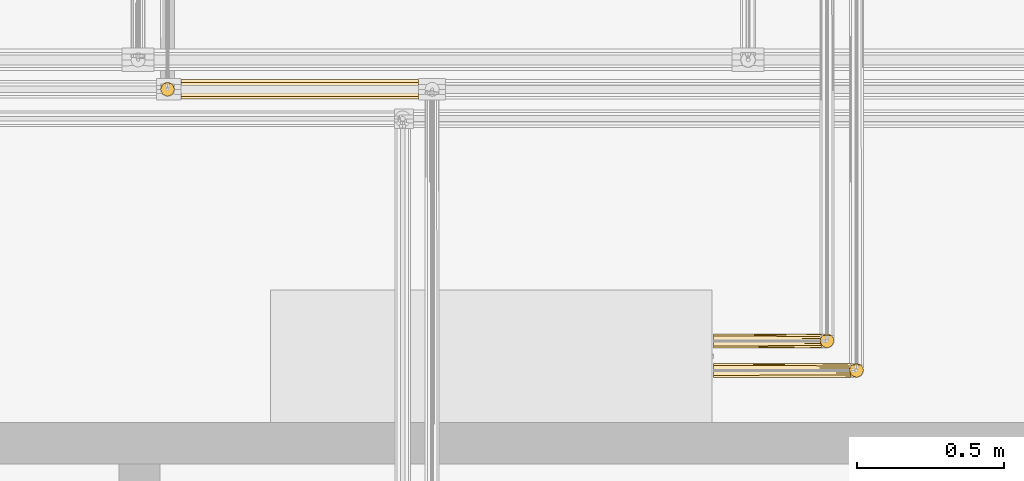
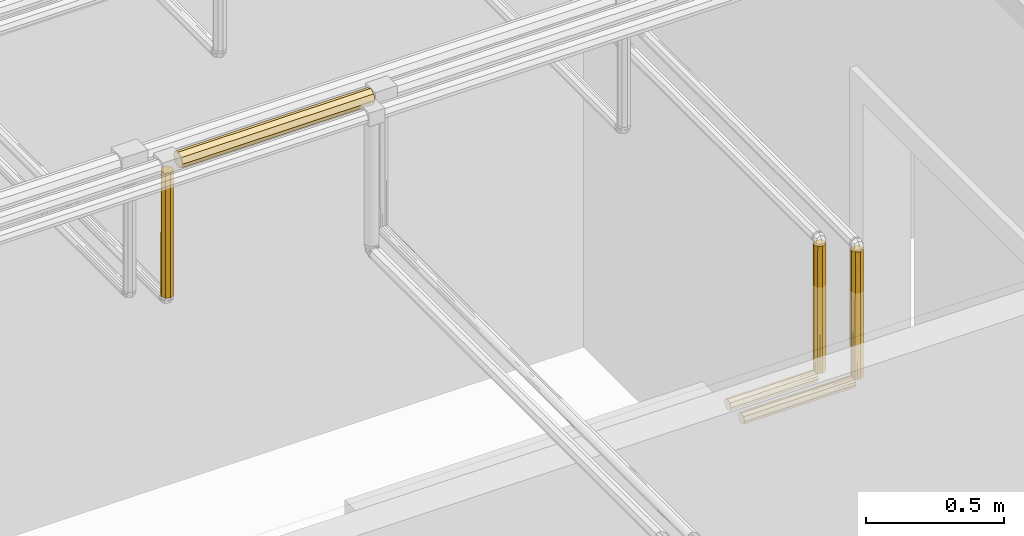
# One storey, part 167 of 652: 6 coverings.
"""IFC2X3 building model written with IfcOpenShell, lengths in millimetres."""

from ifc_helpers import new_model, entity, si_unit, converted_unit, direction, frame, origin, place, context, subcontext, project, spatial, faceted_brep, material, type_object, element, save


model = new_model("IFC2X3")

# Units and contexts
model_context = context("Model", 3, precision=0.01, world=frame((0.0, 0.0, 308426.39999999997)), true_north=direction((6.123233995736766e-17, 1.0)))
plan_context = context("Plan", 3, precision=0.01, world=frame((0.0, 0.0, 308426.39999999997)), true_north=direction((6.123233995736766e-17, 1.0)))
body_context = subcontext(model_context, "Body", "Model", "MODEL_VIEW")
ifc_project = project(units=[si_unit("LENGTHUNIT", "METRE", prefix="MILLI"), si_unit("AREAUNIT", "SQUARE_METRE"), si_unit("VOLUMEUNIT", "CUBIC_METRE"), converted_unit("PLANEANGLEUNIT", "DEGREE", entity("IfcPlaneAngleMeasure", 0.017453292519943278), si_unit("PLANEANGLEUNIT", "RADIAN"), dimensions=[0, 0, 0, 0, 0, 0, 0])], contexts=[model_context, plan_context])

# Site, building, storey
site_placement = place(None, origin())
site = spatial("IfcSite", under=ifc_project, at=site_placement, Name="Default", CompositionType="ELEMENT")
building_placement = place(site_placement, origin())
building = spatial("IfcBuilding", under=site, at=building_placement, CompositionType="ELEMENT")
storey_placement = place(building_placement, frame((0.0, 0.0, 1730.6999999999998)))
storey = spatial("IfcBuildingStorey", under=building, at=storey_placement, Name="EG_Produktion_FFB", CompositionType="ELEMENT", Elevation=1730.6999999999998)

# Coverings
ifc_material = material(Name="Dämmung - Armaflex-Schlauch")
covering_type = type_object("IfcCoveringType", Name="Rohrdämmung außen:Armaflex-Schlauch", PredefinedType="INSULATION")
covering_1_placement = place(storey_placement, frame((27235.74774999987, 59815.1172277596, 3865.117227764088)))
element("IfcCovering", 1, at=covering_1_placement, inside=storey, type_object=covering_type, material=ifc_material, Name="Rohrdämmung außen:Armaflex-Schlauch", ObjectType="Rohrdämmung außen:Armaflex-Schlauch", PredefinedType="INSULATION", context=body_context, shape_type="Brep", body=[
    faceted_brep([(807.1828219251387, 68.17027223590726, 34.88277223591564), (807.1828219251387, 66.00733394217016, 40.104567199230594), (807.1828219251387, 63.295430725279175, 46.65168072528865), (807.1828219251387, 60.8580099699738, 52.53613496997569), (807.1828219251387, 58.420589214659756, 58.42058921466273), (807.1828219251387, 52.53613496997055, 60.85800996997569), (807.1828219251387, 46.65168072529, 63.295430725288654), (807.1828219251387, 40.76722648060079, 65.73285148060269), (807.1828219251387, 34.88277223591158, 68.17027223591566), (807.1828219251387, 29.6609772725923, 66.00733394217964), (807.1828219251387, 23.113863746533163, 63.295430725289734), (807.1828219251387, 17.229409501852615, 60.85800996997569), (807.1828219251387, 11.344955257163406, 58.42058921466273), (807.1828219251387, 8.907534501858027, 52.53613496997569), (807.1828219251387, 6.470113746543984, 46.65168072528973), (807.1828219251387, 4.0326929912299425, 40.76722648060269), (807.1828219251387, 1.5952722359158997, 34.88277223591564), (807.1828219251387, 4.032692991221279, 28.9983179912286), (807.1828219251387, 6.470113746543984, 23.113863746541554), (807.1828219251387, 8.907534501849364, 17.229409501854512), (807.1828219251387, 11.344955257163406, 11.34495525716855), (807.1828219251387, 17.229409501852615, 8.90753450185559), (807.1828219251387, 23.113863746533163, 6.470113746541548), (807.1828219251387, 28.998317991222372, 4.032692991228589), (807.1828219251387, 34.88277223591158, 1.595272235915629), (807.1828219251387, 40.104567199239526, 3.7582105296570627), (807.1828219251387, 46.65168072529, 6.470113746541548), (807.1828219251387, 52.53613496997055, 8.90753450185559), (807.1828219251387, 58.420589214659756, 11.34495525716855), (807.1828219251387, 60.8580099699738, 17.229409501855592), (807.1828219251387, 63.295430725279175, 23.113863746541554), (807.1828219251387, 65.73285148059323, 28.9983179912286), (0.0, 52.53613496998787, 8.907534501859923), (0.0, 46.65168072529, 6.47011374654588), (0.0, 40.76722648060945, 4.032692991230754), (0.0, 34.88277223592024, 1.5952722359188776), (0.0, 24.4391823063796, 5.9211488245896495), (0.0, 17.892068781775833, 8.633052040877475), (0.0, 11.344955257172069, 11.344955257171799), (0.0, 8.907534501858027, 17.229409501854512), (0.0, 6.470113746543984, 23.113863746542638), (0.0, 4.032692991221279, 28.998317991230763), (0.0, 1.5952722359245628, 34.88277223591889), (0.0, 5.921148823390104, 45.32636216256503), (0.0, 8.63305204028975, 51.87347568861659), (0.0, 11.344955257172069, 58.42058921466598), (0.0, 17.22940950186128, 60.858009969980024), (0.0, 23.11386374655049, 63.2954307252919), (0.0, 28.998317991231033, 65.73285148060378), (0.0, 34.88277223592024, 68.1702722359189), (0.0, 45.326362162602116, 63.84439564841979), (0.0, 51.873475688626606, 61.13249243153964), (0.0, 58.42058921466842, 58.42058921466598), (0.0, 60.85800996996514, 52.536134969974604), (0.0, 63.295430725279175, 46.65168072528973), (0.0, 65.73285148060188, 40.767226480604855), (0.0, 68.17027223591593, 34.88277223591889), (0.0, 63.84439564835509, 24.439182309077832), (0.0, 61.132492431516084, 17.89206878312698), (0.0, 58.42058921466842, 11.344955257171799)], [[[0, 1, 2, 3, 4, 5, 6, 7, 8, 9, 10, 11, 12, 13, 14, 15, 16, 17, 18, 19, 20, 21, 22, 23, 24, 25, 26, 27, 28, 29, 30, 31]], [[32, 33, 34, 35, 36, 37, 38, 39, 40, 41, 42, 43, 44, 45, 46, 47, 48, 49, 50, 51, 52, 53, 54, 55, 56, 57, 58, 59]], [[40, 39, 38, 20, 19, 18, 17, 16, 42, 41]], [[36, 35, 24, 23, 22, 21, 20, 38, 37]], [[33, 32, 59, 28, 27, 26, 25, 24, 35, 34]], [[28, 59, 58, 57, 56, 0, 31, 30, 29]], [[54, 53, 52, 4, 3, 2, 1, 0, 56, 55]], [[4, 52, 51, 50, 49, 8, 7, 6, 5]], [[47, 46, 45, 12, 11, 10, 9, 8, 49, 48]], [[12, 45, 44, 43, 42, 16, 15, 14, 13]]]),
])
covering_2_placement = place(storey_placement, frame((27164.64222776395, 59824.64222775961, 3316.3549777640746)))
element("IfcCovering", 2, at=covering_2_placement, inside=storey, type_object=covering_type, material=ifc_material, Name="Rohrdämmung außen:Armaflex-Schlauch", ObjectType="Rohrdämmung außen:Armaflex-Schlauch", PredefinedType="INSULATION", context=body_context, shape_type="Brep", body=[
    faceted_brep([(43.90036590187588, 12.755803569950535, 555.5086722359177), (45.64033467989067, 16.956459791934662, 555.5086722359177), (47.21923512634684, 20.76826266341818, 555.5086722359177), (49.12027223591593, 25.35777223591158, 555.5086722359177), (47.38030345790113, 29.55842845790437, 555.5086722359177), (45.64033467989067, 33.759084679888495, 555.5086722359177), (43.900365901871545, 37.95974090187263, 555.5086722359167), (42.16039712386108, 42.160397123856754, 555.5086722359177), (37.95974090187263, 43.90036590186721, 555.5086722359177), (33.759084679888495, 45.640334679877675, 555.5086722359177), (29.55842845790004, 47.38030345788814, 555.5086722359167), (25.357772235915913, 49.12027223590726, 555.5086722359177), (21.157116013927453, 47.3803034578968, 555.5086722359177), (16.956459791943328, 45.640334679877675, 555.5086722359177), (12.755803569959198, 43.90036590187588, 555.5086722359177), (8.55514734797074, 42.160397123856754, 555.5086722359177), (6.8151785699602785, 37.95974090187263, 555.5086722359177), (5.0752097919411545, 33.759084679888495, 555.5086722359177), (3.4963093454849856, 29.947281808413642, 555.5086722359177), (1.5952722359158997, 25.35777223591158, 555.5086722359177), (3.4963093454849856, 20.76826266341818, 555.5086722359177), (5.0752097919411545, 16.956459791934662, 555.5086722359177), (6.8151785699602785, 12.755803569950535, 555.5086722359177), (8.55514734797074, 8.55514734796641, 555.5086722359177), (12.755803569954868, 6.815178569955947, 555.5086722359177), (16.956459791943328, 5.075209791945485, 555.5086722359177), (20.768262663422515, 3.496309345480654, 555.5086722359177), (25.357772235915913, 1.5952722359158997, 555.5086722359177), (29.94728180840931, 3.496309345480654, 555.5086722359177), (33.759084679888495, 5.075209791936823, 555.5086722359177), (37.959740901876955, 6.815178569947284, 555.5086722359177), (42.16039712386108, 8.55514734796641, 555.5086722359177), (25.357772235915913, 1.5952722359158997, 1.5952722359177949), (20.768262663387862, 3.49630934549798, 1.5952722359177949), (16.17875309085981, 5.397346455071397, 1.5952722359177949), (12.366950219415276, 6.976246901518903, 1.5952722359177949), (8.55514734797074, 8.55514734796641, 1.5952722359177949), (6.8151785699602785, 12.755803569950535, 1.5952722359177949), (5.0752097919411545, 16.956459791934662, 1.5952722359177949), (3.3352410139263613, 21.15711601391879, 1.5952722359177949), (1.5952722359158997, 25.35777223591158, 1.5952722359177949), (2.6684511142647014, 30.292313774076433, 1.5952722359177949), (3.7416299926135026, 35.22685531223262, 1.5952722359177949), (6.764379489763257, 39.26743877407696, 1.5952722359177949), (9.787128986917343, 43.30802223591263, 1.5952722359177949), (40.92841548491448, 43.30802223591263, 1.5952722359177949), (43.95116498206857, 39.26743877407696, 1.595272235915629), (46.97391447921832, 35.22685531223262, 1.5952722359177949), (48.04709335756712, 30.29231377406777, 1.5952722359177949), (49.12027223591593, 25.35777223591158, 1.5952722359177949), (47.219235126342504, 20.768262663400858, 1.5952722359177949), (45.31819801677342, 16.178753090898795, 1.5952722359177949), (43.739297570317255, 12.366950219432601, 1.5952722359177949), (42.16039712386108, 8.55514734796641, 1.5952722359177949), (37.95974090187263, 6.815178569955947, 1.5952722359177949), (33.759084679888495, 5.075209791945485, 1.5952722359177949), (29.55842845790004, 3.3352410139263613, 1.5952722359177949), (33.6678140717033, 47.61983887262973, 5.907088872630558), (37.29811477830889, 45.46393055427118, 3.7511805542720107), (29.512793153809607, 48.3700555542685, 6.657305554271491), (25.357772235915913, 49.12027223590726, 7.407522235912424), (21.20275131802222, 48.3700555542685, 6.657305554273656), (17.047730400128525, 47.61983887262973, 5.907088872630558), (13.417429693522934, 45.46393055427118, 3.7511805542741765)], [[[0, 1, 2, 3, 4, 5, 6, 7, 8, 9, 10, 11, 12, 13, 14, 15, 16, 17, 18, 19, 20, 21, 22, 23, 24, 25, 26, 27, 28, 29, 30, 31]], [[32, 33, 34, 35, 36, 37, 38, 39, 40, 41, 42, 43, 44, 45, 46, 47, 48, 49, 50, 51, 52, 53, 54, 55, 56]], [[49, 4, 3]], [[9, 57, 10]], [[4, 49, 48]], [[48, 5, 4]], [[45, 7, 46]], [[8, 45, 58]], [[58, 57, 9]], [[59, 60, 11]], [[47, 46, 6]], [[46, 7, 6]], [[47, 6, 5]], [[10, 57, 59]], [[7, 45, 8]], [[48, 47, 5]], [[58, 9, 8]], [[59, 11, 10]], [[60, 61, 11]], [[40, 19, 41]], [[12, 61, 62]], [[42, 16, 43]], [[63, 13, 62]], [[15, 44, 43]], [[42, 41, 17]], [[17, 41, 19, 18]], [[11, 61, 12]], [[43, 16, 15]], [[42, 17, 16]], [[13, 63, 14]], [[44, 14, 63]], [[12, 62, 13]], [[14, 44, 15]], [[27, 26, 25, 24, 23, 36, 35, 34, 33, 32]], [[22, 21, 20, 19, 40, 39, 38, 37, 36, 23]], [[3, 2, 1, 0, 31, 53, 52, 51, 50, 49]], [[30, 29, 28, 27, 32, 56, 55, 54, 53, 31]], [[57, 58, 45, 44, 63, 62, 61, 60, 59]]]),
])
covering_3_placement = place(storey_placement, frame((29045.0, 58969.92931831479, 2674.642227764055)))
element("IfcCovering", 3, at=covering_3_placement, inside=storey, type_object=covering_type, material=ifc_material, Name="Rohrdämmung außen:Armaflex-Schlauch", ObjectType="Rohrdämmung außen:Armaflex-Schlauch", PredefinedType="INSULATION", context=body_context, shape_type="Brep", body=[
    faceted_brep([(367.049750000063, 9.787128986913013, 43.308022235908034), (367.0497500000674, 6.764379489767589, 39.26743877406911), (367.049750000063, 3.7416299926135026, 35.22685531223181), (367.049750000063, 2.6684511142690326, 30.292313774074), (367.049750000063, 1.5952722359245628, 25.35777223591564), (367.0497500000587, 3.335241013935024, 21.157116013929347), (367.0497500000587, 5.075209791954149, 16.956459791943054), (367.0497500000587, 6.81517856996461, 12.755803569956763), (367.0497500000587, 8.55514734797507, 8.55514734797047), (367.0497500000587, 12.755803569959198, 6.8151785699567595), (367.0497500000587, 16.956459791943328, 5.075209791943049), (367.0497500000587, 21.15711601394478, 3.335241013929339), (367.0497500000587, 25.357772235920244, 1.595272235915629), (367.0497500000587, 28.820778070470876, 3.029696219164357), (367.0497500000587, 33.759084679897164, 5.075209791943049), (367.0497500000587, 37.95974090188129, 6.8151785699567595), (367.0497500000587, 42.160397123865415, 8.55514734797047), (367.0497500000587, 43.90036590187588, 12.755803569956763), (367.0497500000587, 45.640334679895, 16.956459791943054), (367.0497500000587, 47.38030345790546, 21.157116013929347), (367.0497500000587, 49.12027223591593, 25.35777223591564), (367.0497500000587, 48.047093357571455, 30.292313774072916), (367.049750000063, 46.973914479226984, 35.226855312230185), (367.049750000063, 43.951164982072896, 39.267438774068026), (367.049750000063, 40.92841548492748, 43.30802223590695), (0.0, 37.95974090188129, 6.815178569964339), (0.0, 33.759084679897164, 5.075209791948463), (0.0, 29.55842845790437, 3.3352410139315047), (0.0, 25.35777223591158, 1.5952722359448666), (0.0, 18.431760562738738, 4.464120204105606), (0.0, 13.493453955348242, 6.509633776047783), (0.0, 8.55514734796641, 8.555147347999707), (0.0, 6.815178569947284, 12.75580356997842), (0.0, 5.075209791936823, 16.95645979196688), (0.0, 3.335241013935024, 21.15711601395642), (0.0, 1.5952722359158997, 25.35777223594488), (0.0, 3.0296962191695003, 28.820778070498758), (0.0, 5.075209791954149, 33.759084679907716), (0.0, 6.81517856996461, 37.95974090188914), (0.0, 8.55514734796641, 42.16039712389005), (0.0, 12.755803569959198, 43.900365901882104), (0.0, 16.956459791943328, 45.64033467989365), (0.0, 21.157116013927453, 47.38030345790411), (0.0, 25.35777223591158, 49.12027223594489), (0.0, 29.558428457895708, 47.38030345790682), (0.0, 33.759084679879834, 45.64033467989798), (0.0, 37.95974090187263, 43.900365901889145), (0.0, 42.160397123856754, 42.16039712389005), (0.0, 43.90036590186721, 37.959740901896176), (0.0, 45.64033467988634, 33.75908467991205), (0.0, 47.3803034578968, 29.558428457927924), (0.0, 49.12027223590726, 25.35777223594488), (0.0, 46.25142426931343, 18.431760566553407), (0.0, 44.20591069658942, 13.49345395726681), (0.0, 42.160397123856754, 8.555147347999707), (364.8938416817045, 37.29811477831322, 45.46393055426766), (362.7379333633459, 33.66781407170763, 47.61983887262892), (361.9877166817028, 29.512793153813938, 48.370055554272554), (361.23750000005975, 25.357772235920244, 49.12027223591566), (361.9877166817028, 21.20275131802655, 48.370055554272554), (364.8938416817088, 13.417429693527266, 45.46393055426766), (362.7379333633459, 17.047730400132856, 47.61983887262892)], [[[0, 1, 2, 3, 4, 5, 6, 7, 8, 9, 10, 11, 12, 13, 14, 15, 16, 17, 18, 19, 20, 21, 22, 23, 24]], [[25, 26, 27, 28, 29, 30, 31, 32, 33, 34, 35, 36, 37, 38, 39, 40, 41, 42, 43, 44, 45, 46, 47, 48, 49, 50, 51, 52, 53, 54]], [[33, 32, 31, 8, 7, 6, 5, 4, 35, 34]], [[29, 28, 12, 11, 10, 9, 8, 31, 30]], [[26, 25, 54, 16, 15, 14, 13, 12, 28, 27]], [[16, 54, 53, 52, 51, 20, 19, 18, 17]], [[23, 48, 47]], [[20, 50, 21]], [[55, 24, 46]], [[49, 22, 21]], [[49, 48, 22]], [[51, 50, 20]], [[24, 47, 46]], [[56, 45, 44]], [[21, 50, 49]], [[55, 45, 56]], [[22, 48, 23]], [[57, 56, 44]], [[45, 55, 46]], [[47, 24, 23]], [[43, 57, 44]], [[58, 57, 43]], [[43, 59, 58]], [[38, 37, 2]], [[59, 43, 42]], [[0, 40, 39]], [[60, 41, 40]], [[39, 1, 0]], [[37, 3, 2]], [[60, 61, 41]], [[41, 61, 42]], [[36, 4, 3]], [[40, 0, 60]], [[38, 2, 1]], [[1, 39, 38]], [[42, 61, 59]], [[3, 37, 36]], [[36, 35, 4]], [[59, 61, 60, 0, 24, 55, 56, 57, 58]]]),
])
covering_4_placement = place(storey_placement, frame((29045.0, 58869.929318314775, 2674.6422277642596)))
element("IfcCovering", 4, at=covering_4_placement, inside=storey, type_object=covering_type, material=ifc_material, Name="Rohrdämmung außen:Armaflex-Schlauch", ObjectType="Rohrdämmung außen:Armaflex-Schlauch", PredefinedType="INSULATION", context=body_context, shape_type="Brep", body=[
    faceted_brep([(467.0497500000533, 1.5952722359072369, 25.35777223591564), (467.0497500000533, 3.3352410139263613, 21.157116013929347), (467.0497500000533, 5.075209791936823, 16.956459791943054), (467.04975000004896, 6.815178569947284, 12.755803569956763), (467.0497500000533, 8.555147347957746, 8.55514734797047), (467.0497500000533, 12.755803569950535, 6.8151785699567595), (467.0497500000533, 16.956459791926, 5.075209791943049), (467.0497500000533, 21.157116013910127, 3.335241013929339), (467.0497500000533, 25.357772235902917, 1.595272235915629), (467.04975000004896, 30.80085587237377, 3.8498712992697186), (467.0497500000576, 33.759084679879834, 5.075209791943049), (467.0497500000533, 37.95974090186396, 6.8151785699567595), (467.0497500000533, 42.16039712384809, 8.55514734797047), (467.04975000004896, 43.90036590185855, 12.755803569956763), (467.04975000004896, 45.640334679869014, 16.956459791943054), (467.0497500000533, 47.38030345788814, 21.157116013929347), (467.0497500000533, 49.1202722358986, 25.35777223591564), (467.0497500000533, 48.047093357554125, 30.29231377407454), (467.0497500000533, 46.97391447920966, 35.22685531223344), (467.0497500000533, 43.95116498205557, 39.26743877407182), (467.0497500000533, 40.928415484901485, 43.30802223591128), (467.0497500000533, 9.78712898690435, 43.308022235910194), (467.0497500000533, 6.764379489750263, 39.26743877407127), (467.0497500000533, 3.741629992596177, 35.226855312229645), (467.0497500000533, 2.668451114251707, 30.292313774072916), (0.0, 37.95974090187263, 6.8151785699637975), (0.0, 33.759084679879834, 5.075209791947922), (0.0, 29.558428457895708, 3.3352410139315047), (0.0, 25.35777223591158, 1.595272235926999), (0.0, 19.91468859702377, 3.849871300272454), (0.0, 14.47160495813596, 6.104470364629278), (0.0, 8.55514734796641, 8.555147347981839), (0.0, 6.815178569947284, 12.755803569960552), (0.0, 5.07520979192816, 16.956459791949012), (0.0, 3.3352410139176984, 21.157116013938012), (0.0, 1.5952722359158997, 25.357772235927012), (0.0, 3.8498712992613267, 30.80085587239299), (0.0, 5.075209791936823, 33.759084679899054), (0.0, 6.815178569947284, 37.95974090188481), (0.0, 8.55514734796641, 42.16039712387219), (0.0, 12.755803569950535, 43.900365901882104), (0.0, 16.956459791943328, 45.64033467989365), (0.0, 21.157116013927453, 47.38030345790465), (0.0, 25.35777223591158, 49.120272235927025), (0.0, 29.558428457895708, 47.380303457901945), (0.0, 33.759084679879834, 45.640334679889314), (0.0, 37.95974090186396, 43.90036590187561), (0.0, 42.160397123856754, 42.16039712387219), (0.0, 43.90036590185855, 37.95974090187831), (0.0, 45.640334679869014, 33.75908467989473), (0.0, 47.38030345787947, 29.558428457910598), (0.0, 49.12027223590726, 25.357772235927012), (0.0, 46.865673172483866, 19.914688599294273), (0.0, 44.61107410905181, 14.471604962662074), (0.0, 42.160397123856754, 8.555147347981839), (461.9877166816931, 29.51279315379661, 48.370055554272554), (464.89384168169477, 37.2981147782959, 45.46393055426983), (462.7379333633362, 33.66781407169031, 47.61983887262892), (461.23750000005, 25.357772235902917, 49.12027223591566), (461.9877166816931, 21.202751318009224, 48.370055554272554), (462.7379333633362, 17.04773040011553, 47.61983887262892), (464.89384168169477, 13.41742969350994, 45.46393055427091)], [[[0, 1, 2, 3, 4, 5, 6, 7, 8, 9, 10, 11, 12, 13, 14, 15, 16, 17, 18, 19, 20, 21, 22, 23, 24]], [[25, 26, 27, 28, 29, 30, 31, 32, 33, 34, 35, 36, 37, 38, 39, 40, 41, 42, 43, 44, 45, 46, 47, 48, 49, 50, 51, 52, 53, 54]], [[33, 32, 31, 4, 3, 2, 1, 0, 35, 34]], [[31, 30, 29, 28, 8, 7, 6, 5, 4]], [[14, 13, 12, 54, 53, 52, 51, 16, 15]], [[11, 10, 9, 8, 28, 27, 26, 25, 54, 12]], [[19, 48, 47]], [[51, 50, 16]], [[49, 18, 17]], [[49, 48, 18]], [[43, 55, 44]], [[20, 46, 56]], [[57, 45, 44]], [[17, 50, 49]], [[45, 57, 56]], [[18, 48, 19]], [[55, 57, 44]], [[16, 50, 17]], [[47, 20, 19]], [[58, 55, 43]], [[46, 20, 47]], [[46, 45, 56]], [[43, 59, 58]], [[36, 23, 38, 37]], [[59, 43, 42]], [[60, 41, 61]], [[22, 39, 38]], [[39, 22, 21]], [[23, 36, 24]], [[21, 40, 39]], [[41, 60, 42]], [[35, 24, 36]], [[21, 61, 40]], [[38, 23, 22]], [[42, 60, 59]], [[35, 0, 24]], [[61, 41, 40]], [[59, 60, 61, 21, 20, 56, 57, 55, 58]]]),
])
covering_5_placement = place(storey_placement, frame((29504.64222776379, 58869.92931831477, 3283.6450222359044)))
element("IfcCovering", 5, at=covering_5_placement, inside=storey, type_object=covering_type, material=ifc_material, Name="Rohrdämmung außen:Armaflex-Schlauch", ObjectType="Rohrdämmung außen:Armaflex-Schlauch", PredefinedType="INSULATION", context=body_context, shape_type="Brep", body=[
    faceted_brep([(46.97391447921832, 35.22685531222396, -1.5952722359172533), (43.95116498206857, 39.267438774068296, -1.5952722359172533), (40.92841548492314, 43.30802223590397, -1.5952722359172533), (9.787128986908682, 43.30802223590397, -1.5952722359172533), (6.764379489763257, 39.267438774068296, -1.5952722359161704), (3.7416299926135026, 35.22685531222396, -1.5952722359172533), (2.6684511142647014, 30.292313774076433, -1.5952722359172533), (1.5952722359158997, 25.35777223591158, -1.5952722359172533), (3.3352410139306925, 21.157116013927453, -1.5952722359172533), (5.0752097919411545, 16.956459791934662, -1.5952722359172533), (6.815178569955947, 12.755803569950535, -1.5952722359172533), (8.55514734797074, 8.55514734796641, -1.5952722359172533), (12.755803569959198, 6.815178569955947, -1.5952722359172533), (16.956459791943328, 5.075209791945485, -1.5952722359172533), (20.851136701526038, 3.4619817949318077, -1.5952722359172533), (25.357772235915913, 1.5952722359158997, -1.5952722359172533), (29.55842845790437, 3.335241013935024, -1.5952722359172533), (33.759084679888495, 5.075209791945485, -1.5952722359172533), (37.95974090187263, 6.815178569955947, -1.5952722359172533), (42.16039712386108, 8.55514734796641, -1.5952722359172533), (43.90036590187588, 12.755803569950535, -1.5952722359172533), (45.64033467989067, 16.956459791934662, -1.5952722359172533), (47.25356267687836, 20.851136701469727, -1.5952722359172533), (49.12027223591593, 25.35777223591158, -1.5952722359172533), (48.04709335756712, 30.292313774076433, -1.5952722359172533), (25.357772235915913, 1.5952722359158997, -565.6947722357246), (20.42323069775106, 2.6684511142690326, -565.6947722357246), (15.488689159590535, 3.7416299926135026, -565.6947722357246), (11.448105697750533, 6.764379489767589, -565.6947722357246), (7.407522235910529, 9.787128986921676, -565.6947722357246), (7.407522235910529, 40.928415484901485, -565.6947722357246), (11.448105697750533, 43.95116498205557, -565.6947722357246), (15.488689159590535, 46.97391447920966, -565.6947722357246), (20.42323069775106, 48.047093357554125, -565.6947722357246), (25.357772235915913, 49.12027223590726, -565.6947722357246), (29.55842845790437, 47.3803034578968, -565.6947722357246), (33.759084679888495, 45.640334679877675, -565.6947722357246), (37.95974090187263, 43.90036590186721, -565.6947722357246), (42.16039712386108, 42.160397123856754, -565.6947722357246), (43.900365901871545, 37.95974090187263, -565.6947722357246), (45.64033467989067, 33.759084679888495, -565.6947722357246), (47.38030345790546, 29.55842845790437, -565.6947722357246), (49.12027223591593, 25.35777223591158, -565.6947722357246), (47.25356267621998, 20.851136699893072, -565.6947722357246), (45.38685311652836, 16.344501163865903, -565.6947722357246), (43.77362512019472, 12.449824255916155, -565.6947722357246), (42.16039712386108, 8.55514734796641, -565.6947722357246), (37.959740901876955, 6.815178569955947, -565.6947722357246), (33.75908467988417, 5.075209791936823, -565.6947722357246), (29.55842845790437, 3.3352410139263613, -565.6947722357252), (29.512793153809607, 48.37005555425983, -6.657305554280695), (37.298114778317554, 45.46393055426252, -3.7511805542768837), (33.66781407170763, 47.61983887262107, -5.907088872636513), (25.357772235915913, 49.12027223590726, -7.407522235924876), (21.202751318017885, 48.37005555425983, -6.657305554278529), (17.04773040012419, 47.61983887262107, -5.907088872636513), (13.41742969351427, 45.46393055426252, -3.7511805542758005), (5.251613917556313, 37.2981147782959, -563.5388639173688), (2.3454889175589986, 29.512793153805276, -560.632738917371), (1.5952722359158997, 25.35777223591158, -559.8825222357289), (3.0957055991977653, 33.66781407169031, -561.3829555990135), (2.3454889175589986, 21.202751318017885, -560.632738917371), (3.0957055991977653, 17.047730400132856, -561.3829555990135), (5.251613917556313, 13.417429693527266, -563.5388639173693)], [[[0, 1, 2, 3, 4, 5, 6, 7, 8, 9, 10, 11, 12, 13, 14, 15, 16, 17, 18, 19, 20, 21, 22, 23, 24]], [[25, 26, 27, 28, 29, 30, 31, 32, 33, 34, 35, 36, 37, 38, 39, 40, 41, 42, 43, 44, 45, 46, 47, 48, 49]], [[48, 47, 46, 19, 18, 17, 16, 15, 25, 49]], [[19, 46, 45, 44, 43, 42, 23, 22, 21, 20]], [[1, 39, 38]], [[42, 41, 23]], [[40, 0, 24]], [[40, 39, 0]], [[34, 50, 35]], [[2, 37, 51]], [[52, 36, 35]], [[24, 41, 40]], [[36, 52, 51]], [[0, 39, 1]], [[50, 52, 35]], [[23, 41, 24]], [[38, 2, 1]], [[53, 50, 34]], [[37, 2, 38]], [[37, 36, 51]], [[54, 53, 34]], [[33, 55, 54]], [[56, 31, 3]], [[4, 57, 5]], [[56, 55, 32]], [[57, 4, 30]], [[58, 7, 6]], [[32, 55, 33]], [[58, 59, 7]], [[54, 34, 33]], [[31, 56, 32]], [[5, 60, 6]], [[31, 30, 3]], [[6, 60, 58]], [[4, 3, 30]], [[57, 60, 5]], [[59, 61, 7]], [[26, 25, 14]], [[8, 61, 62]], [[27, 12, 28]], [[63, 9, 62]], [[11, 29, 28]], [[27, 26, 13]], [[13, 26, 14]], [[7, 61, 8]], [[28, 12, 11]], [[25, 15, 14]], [[27, 13, 12]], [[9, 63, 10]], [[29, 10, 63]], [[8, 62, 9]], [[10, 29, 11]], [[2, 51, 52, 50, 53, 54, 55, 56, 3]], [[58, 60, 57, 30, 29, 63, 62, 61, 59]]]),
])
covering_6_placement = place(storey_placement, frame((29404.64222776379, 58969.9293183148, 3283.6450222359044)))
element("IfcCovering", 6, at=covering_6_placement, inside=storey, type_object=covering_type, material=ifc_material, Name="Rohrdämmung außen:Armaflex-Schlauch", ObjectType="Rohrdämmung außen:Armaflex-Schlauch", PredefinedType="INSULATION", context=body_context, shape_type="Brep", body=[
    faceted_brep([(46.97391447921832, 35.22685531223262, -1.5952722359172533), (43.951164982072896, 39.267438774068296, -1.5952722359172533), (40.92841548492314, 43.30802223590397, -1.5952722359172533), (9.787128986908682, 43.30802223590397, -1.5952722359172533), (6.764379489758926, 39.267438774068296, -1.5952722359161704), (3.7416299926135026, 35.22685531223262, -1.5952722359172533), (2.6684511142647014, 30.292313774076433, -1.5952722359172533), (1.5952722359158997, 25.35777223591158, -1.5952722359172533), (3.3352410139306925, 21.157116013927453, -1.5952722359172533), (5.075209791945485, 16.956459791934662, -1.5952722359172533), (6.815178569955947, 12.755803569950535, -1.5952722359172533), (8.55514734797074, 8.55514734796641, -1.5952722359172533), (12.755803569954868, 6.815178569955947, -1.5952722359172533), (16.956459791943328, 5.075209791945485, -1.5952722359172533), (20.851136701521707, 3.4619817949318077, -1.5952722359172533), (25.357772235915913, 1.5952722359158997, -1.5952722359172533), (29.55842845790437, 3.3352410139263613, -1.5952722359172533), (33.759084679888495, 5.075209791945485, -1.5952722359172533), (37.95974090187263, 6.815178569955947, -1.5952722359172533), (42.16039712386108, 8.55514734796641, -1.5952722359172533), (43.90036590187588, 12.755803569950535, -1.5952722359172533), (45.64033467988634, 16.956459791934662, -1.5952722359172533), (47.25356267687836, 20.851136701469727, -1.5952722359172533), (49.12027223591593, 25.35777223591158, -1.5952722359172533), (48.04709335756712, 30.292313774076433, -1.5952722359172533), (25.357772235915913, 1.5952722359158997, -565.6947722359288), (20.42323069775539, 2.6684511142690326, -565.6947722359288), (15.488689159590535, 3.7416299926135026, -565.6947722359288), (11.448105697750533, 6.764379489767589, -565.6947722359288), (7.407522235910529, 9.787128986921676, -565.6947722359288), (7.407522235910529, 40.928415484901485, -565.6947722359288), (11.448105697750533, 43.95116498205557, -565.6947722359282), (15.488689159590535, 46.97391447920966, -565.6947722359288), (20.42323069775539, 48.047093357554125, -565.6947722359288), (25.357772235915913, 49.12027223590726, -565.6947722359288), (29.55842845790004, 47.3803034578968, -565.6947722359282), (33.759084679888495, 45.640334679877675, -565.6947722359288), (37.95974090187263, 43.90036590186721, -565.6947722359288), (42.16039712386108, 42.160397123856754, -565.6947722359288), (43.900365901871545, 37.95974090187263, -565.6947722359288), (45.64033467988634, 33.759084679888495, -565.6947722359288), (47.38030345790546, 29.558428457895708, -565.6947722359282), (49.12027223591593, 25.35777223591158, -565.6947722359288), (47.253562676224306, 20.85113669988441, -565.6947722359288), (45.38685311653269, 16.344501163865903, -565.6947722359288), (43.77362512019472, 12.449824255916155, -565.6947722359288), (42.16039712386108, 8.55514734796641, -565.6947722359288), (37.95974090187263, 6.815178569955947, -565.6947722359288), (33.759084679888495, 5.075209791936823, -565.6947722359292), (29.55842845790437, 3.3352410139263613, -565.6947722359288), (29.512793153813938, 48.37005555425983, -6.657305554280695), (37.29811477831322, 45.46393055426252, -3.7511805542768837), (33.66781407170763, 47.61983887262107, -5.907088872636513), (25.357772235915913, 49.12027223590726, -7.407522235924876), (21.202751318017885, 48.37005555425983, -6.657305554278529), (17.04773040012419, 47.61983887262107, -5.907088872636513), (13.417429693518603, 45.46393055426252, -3.7511805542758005), (5.251613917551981, 37.2981147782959, -563.5388639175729), (2.3454889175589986, 29.512793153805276, -560.632738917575), (1.5952722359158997, 25.35777223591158, -559.882522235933), (3.0957055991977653, 33.66781407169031, -561.3829555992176), (2.345488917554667, 21.202751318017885, -560.6327389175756), (3.0957055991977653, 17.047730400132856, -561.3829555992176), (5.251613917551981, 13.417429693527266, -563.5388639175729)], [[[0, 1, 2, 3, 4, 5, 6, 7, 8, 9, 10, 11, 12, 13, 14, 15, 16, 17, 18, 19, 20, 21, 22, 23, 24]], [[25, 26, 27, 28, 29, 30, 31, 32, 33, 34, 35, 36, 37, 38, 39, 40, 41, 42, 43, 44, 45, 46, 47, 48, 49]], [[48, 47, 46, 19, 18, 17, 16, 15, 25, 49]], [[19, 46, 45, 44, 43, 42, 23, 22, 21, 20]], [[1, 39, 38]], [[42, 41, 23]], [[40, 0, 24]], [[40, 39, 0]], [[34, 50, 35]], [[2, 37, 51]], [[52, 36, 35]], [[24, 41, 40]], [[36, 52, 51]], [[0, 39, 1]], [[50, 52, 35]], [[23, 41, 24]], [[38, 2, 1]], [[53, 50, 34]], [[37, 2, 38]], [[37, 36, 51]], [[54, 53, 34]], [[33, 55, 54]], [[56, 31, 3]], [[4, 57, 5]], [[56, 55, 32]], [[57, 4, 30]], [[58, 7, 6]], [[32, 55, 33]], [[58, 59, 7]], [[54, 34, 33]], [[31, 56, 32]], [[5, 60, 6]], [[31, 30, 3]], [[6, 60, 58]], [[4, 3, 30]], [[57, 60, 5]], [[59, 61, 7]], [[26, 25, 14]], [[8, 61, 62]], [[27, 12, 28]], [[63, 9, 62]], [[11, 29, 28]], [[27, 26, 13]], [[13, 26, 14]], [[7, 61, 8]], [[28, 12, 11]], [[25, 15, 14]], [[27, 13, 12]], [[9, 63, 10]], [[29, 10, 63]], [[8, 62, 9]], [[10, 29, 11]], [[2, 51, 52, 50, 53, 54, 55, 56, 3]], [[58, 60, 57, 30, 29, 63, 62, 61, 59]]]),
])

save(model, "model.ifc")
